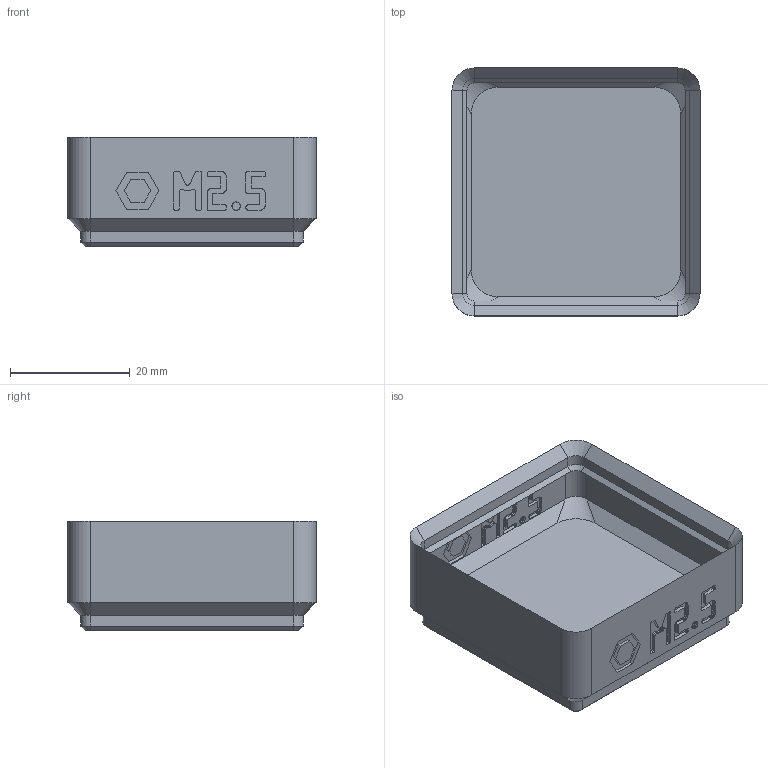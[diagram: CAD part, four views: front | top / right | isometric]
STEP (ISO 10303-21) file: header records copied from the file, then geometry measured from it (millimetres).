
FILE_DESCRIPTION(('Open CASCADE Model'),'2;1');
FILE_NAME('bin_nut_m2_5','2026-11-16T17:21:48',('Author'),( 'Open CASCADE'),'Open CASCADE STEP processor 8.0','build123d', 'Unknown');
FILE_SCHEMA(('AUTOMOTIVE_DESIGN { 1 0 10303 214 1 1 1 1 }'));
Products named in the file (1): bin_nut_m2_5
Bounding box: 41.5 x 41.5 x 18.4 mm (x, y, z)
Volume: 10959.9 mm3; surface area: 8361.4 mm2
Topology: 1 solids, 1 shells, 885 faces, 2530 edges, 1668 vertices
Faces by surface type: plane 837, cylinder 24, cone 16, bspline 8
Full cylindrical faces by diameter (mm): 3.2 x4, 6.5 x4
Entity records: 59476 total; most frequent: CARTESIAN_POINT 11976, DIRECTION 7674, LINE 5770, VECTOR 5770, ORIENTED_EDGE 5060, PCURVE 5060, DEFINITIONAL_REPRESENTATION 5060, EDGE_CURVE 2530
